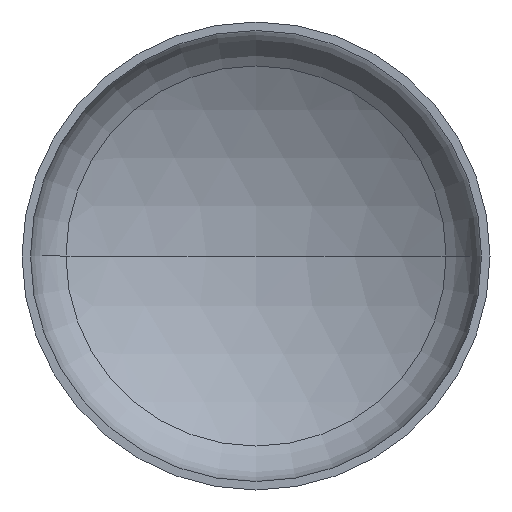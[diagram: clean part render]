
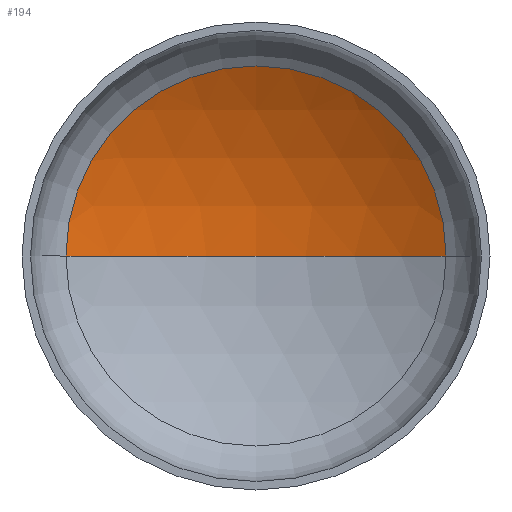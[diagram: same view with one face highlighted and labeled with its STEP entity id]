
A CAD part, front view. The second image highlights one B-rep face of the part: STEP entity #194.
In plain terms, the highlighted spherical face has radius 5200 mm.
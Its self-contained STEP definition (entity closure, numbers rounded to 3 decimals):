
#4 = VERTEX_POINT ( 'NONE', #287 ) ;
#5 = DIRECTION ( 'NONE',  ( -1., 0., 0. ) ) ;
#10 = ORIENTED_EDGE ( 'NONE', *, *, #209, .T. ) ;
#15 = VERTEX_POINT ( 'NONE', #290 ) ;
#32 = CARTESIAN_POINT ( 'NONE',  ( 0., -3543.643, 0. ) ) ;
#39 = VERTEX_POINT ( 'NONE', #361 ) ;
#43 = ORIENTED_EDGE ( 'NONE', *, *, #216, .F. ) ;
#76 = CIRCLE ( 'NONE', #145, 5200. ) ;
#88 = EDGE_LOOP ( 'NONE', ( #43, #10, #408 ) ) ;
#115 = DIRECTION ( 'NONE',  ( 0., 0., -1. ) ) ;
#145 = AXIS2_PLACEMENT_3D ( 'NONE', #317, #266, #397 ) ;
#148 = AXIS2_PLACEMENT_3D ( 'NONE', #32, #115, #5 ) ;
#151 = AXIS2_PLACEMENT_3D ( 'NONE', #182, #189, #362 ) ;
#167 = AXIS2_PLACEMENT_3D ( 'NONE', #331, #356, #315 ) ;
#182 = CARTESIAN_POINT ( 'NONE',  ( 0., 936.582, 0. ) ) ;
#189 = DIRECTION ( 'NONE',  ( 0., -1., 0. ) ) ;
#194 = ADVANCED_FACE ( 'NONE', ( #205 ), #391, .F. ) ;
#195 = CIRCLE ( 'NONE', #148, 5200. ) ;
#205 = FACE_OUTER_BOUND ( 'NONE', #88, .T. ) ;
#207 = EDGE_CURVE ( 'NONE', #4, #39, #328, .T. ) ;
#209 = EDGE_CURVE ( 'NONE', #15, #4, #195, .T. ) ;
#216 = EDGE_CURVE ( 'NONE', #15, #39, #76, .T. ) ;
#266 = DIRECTION ( 'NONE',  ( 0., 0., 1. ) ) ;
#287 = CARTESIAN_POINT ( 'NONE',  ( 2639.619, 936.582, 0. ) ) ;
#290 = CARTESIAN_POINT ( 'NONE',  ( 0., 1656.357, 0. ) ) ;
#315 = DIRECTION ( 'NONE',  ( -1., 0., 0. ) ) ;
#317 = CARTESIAN_POINT ( 'NONE',  ( 0., -3543.643, 0. ) ) ;
#328 = CIRCLE ( 'NONE', #151, 2639.619 ) ;
#331 = CARTESIAN_POINT ( 'NONE',  ( 0., -3543.643, 0. ) ) ;
#356 = DIRECTION ( 'NONE',  ( 0., 0., -1. ) ) ;
#361 = CARTESIAN_POINT ( 'NONE',  ( -2639.619, 936.582, 0. ) ) ;
#362 = DIRECTION ( 'NONE',  ( 1., 0., 0. ) ) ;
#391 = SPHERICAL_SURFACE ( 'NONE', #167, 5200. ) ;
#397 = DIRECTION ( 'NONE',  ( 1., 0., 0. ) ) ;
#408 = ORIENTED_EDGE ( 'NONE', *, *, #207, .T. ) ;
